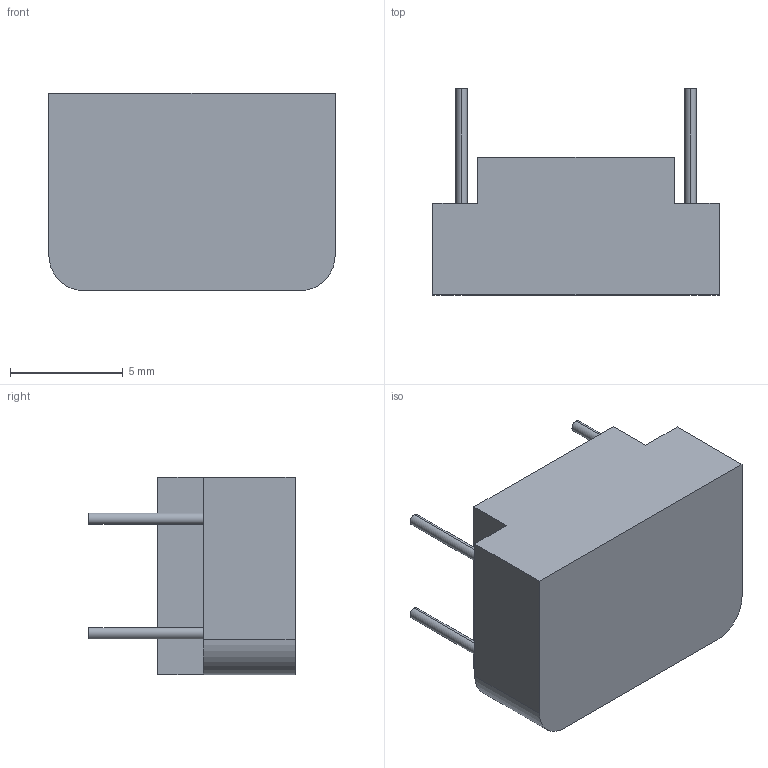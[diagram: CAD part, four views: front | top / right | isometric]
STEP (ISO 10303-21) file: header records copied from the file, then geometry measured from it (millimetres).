
FILE_DESCRIPTION (( 'STEP AP214' ), '1' );
FILE_NAME ('PE-65612NL_3D.STEP', '2018-01-16T02:06:23', ( '' ), ( '' ), 'SwSTEP 2.0', 'SolidWorks 2015', '' );
FILE_SCHEMA (( 'AUTOMOTIVE_DESIGN' ));
Length unit declared in the file: millimetre
Products named in the file (1): PE-65612NL_3D
Bounding box: 12.7 x 9.14 x 8.76 mm (x, y, z)
Volume: 607.7 mm3; surface area: 493 mm2
Topology: 1 solids, 1 shells, 24 faces, 54 edges, 36 vertices
Faces by surface type: plane 14, cylinder 10
Entity records: 712 total; most frequent: DIRECTION 124, CARTESIAN_POINT 115, ORIENTED_EDGE 108, EDGE_CURVE 54, AXIS2_PLACEMENT_3D 45, VERTEX_POINT 36, LINE 34, VECTOR 34
